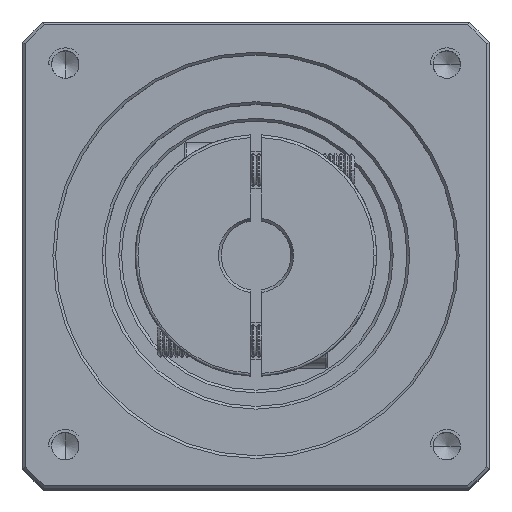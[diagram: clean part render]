
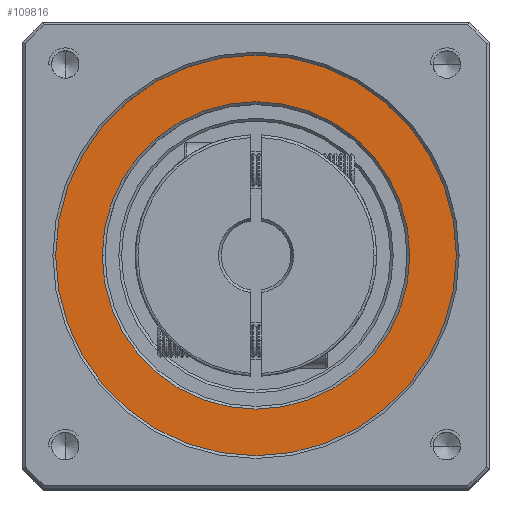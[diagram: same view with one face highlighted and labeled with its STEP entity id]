
A CAD part, top view. The second image highlights one B-rep face of the part: STEP entity #109816.
In plain terms, the highlighted planar face has unit normal (0, 0, 1).
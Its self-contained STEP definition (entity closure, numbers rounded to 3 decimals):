
#54 = DIRECTION ( 'NONE',  ( 1., 0., 0. ) ) ;
#4138 = DIRECTION ( 'NONE',  ( 1., 0., 0. ) ) ;
#5917 = VERTEX_POINT ( 'NONE', #115746 ) ;
#7608 = ORIENTED_EDGE ( 'NONE', *, *, #22439, .T. ) ;
#8929 = DIRECTION ( 'NONE',  ( 1., 0., 0. ) ) ;
#10163 = CIRCLE ( 'NONE', #52515, 28. ) ;
#10177 = CIRCLE ( 'NONE', #52871, 36.5 ) ;
#11607 = EDGE_CURVE ( 'NONE', #53747, #49749, #10163, .T. ) ;
#17464 = CARTESIAN_POINT ( 'NONE',  ( 52.696, 4.37, 99.75 ) ) ;
#22439 = EDGE_CURVE ( 'NONE', #5917, #46544, #10177, .T. ) ;
#23488 = CARTESIAN_POINT ( 'NONE',  ( 24.696, 4.37, 99.75 ) ) ;
#23593 = AXIS2_PLACEMENT_3D ( 'NONE', #111522, #58182, #4138 ) ;
#32559 = DIRECTION ( 'NONE',  ( 1., 0., 0. ) ) ;
#34603 = FACE_OUTER_BOUND ( 'NONE', #56131, .T. ) ;
#34694 = ORIENTED_EDGE ( 'NONE', *, *, #36826, .T. ) ;
#36826 = EDGE_CURVE ( 'NONE', #46544, #5917, #56654, .T. ) ;
#37089 = CARTESIAN_POINT ( 'NONE',  ( -3.304, 4.37, 99.75 ) ) ;
#46544 = VERTEX_POINT ( 'NONE', #64122 ) ;
#48948 = ORIENTED_EDGE ( 'NONE', *, *, #11607, .T. ) ;
#49749 = VERTEX_POINT ( 'NONE', #17464 ) ;
#52515 = AXIS2_PLACEMENT_3D ( 'NONE', #53858, #116214, #62897 ) ;
#52871 = AXIS2_PLACEMENT_3D ( 'NONE', #107545, #54171, #54 ) ;
#53747 = VERTEX_POINT ( 'NONE', #37089 ) ;
#53858 = CARTESIAN_POINT ( 'NONE',  ( 24.696, 4.37, 99.75 ) ) ;
#54171 = DIRECTION ( 'NONE',  ( 0., 0., 1. ) ) ;
#56131 = EDGE_LOOP ( 'NONE', ( #7608, #34694 ) ) ;
#56654 = CIRCLE ( 'NONE', #56903, 36.5 ) ;
#56903 = AXIS2_PLACEMENT_3D ( 'NONE', #116239, #62915, #8929 ) ;
#58182 = DIRECTION ( 'NONE',  ( 0., 0., 1. ) ) ;
#62897 = DIRECTION ( 'NONE',  ( 1., 0., 0. ) ) ;
#62915 = DIRECTION ( 'NONE',  ( 0., 0., 1. ) ) ;
#64122 = CARTESIAN_POINT ( 'NONE',  ( -11.804, 4.37, 99.75 ) ) ;
#74245 = EDGE_CURVE ( 'NONE', #49749, #53747, #95854, .T. ) ;
#75775 = PLANE ( 'NONE',  #23593 ) ;
#77366 = AXIS2_PLACEMENT_3D ( 'NONE', #23488, #86111, #32559 ) ;
#82107 = FACE_BOUND ( 'NONE', #103342, .T. ) ;
#86111 = DIRECTION ( 'NONE',  ( 0., 0., -1. ) ) ;
#95854 = CIRCLE ( 'NONE', #77366, 28. ) ;
#103342 = EDGE_LOOP ( 'NONE', ( #104204, #48948 ) ) ;
#104204 = ORIENTED_EDGE ( 'NONE', *, *, #74245, .T. ) ;
#107545 = CARTESIAN_POINT ( 'NONE',  ( 24.696, 4.37, 99.75 ) ) ;
#109816 = ADVANCED_FACE ( 'NONE', ( #34603, #82107 ), #75775, .T. ) ;
#111522 = CARTESIAN_POINT ( 'NONE',  ( 24.696, 4.37, 99.75 ) ) ;
#115746 = CARTESIAN_POINT ( 'NONE',  ( 61.196, 4.37, 99.75 ) ) ;
#116214 = DIRECTION ( 'NONE',  ( 0., 0., -1. ) ) ;
#116239 = CARTESIAN_POINT ( 'NONE',  ( 24.696, 4.37, 99.75 ) ) ;
